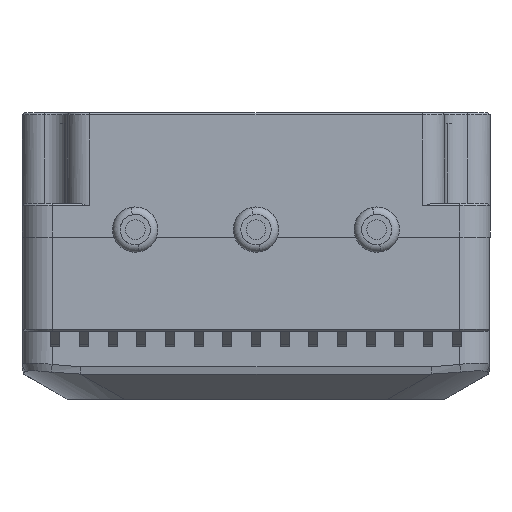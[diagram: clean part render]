
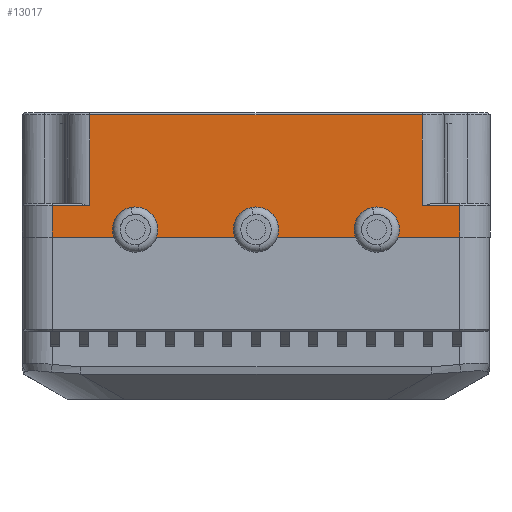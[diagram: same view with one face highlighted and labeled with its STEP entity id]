
A CAD part, front view. The second image highlights one B-rep face of the part: STEP entity #13017.
In plain terms, the highlighted planar face has unit normal (0, -1, 0).
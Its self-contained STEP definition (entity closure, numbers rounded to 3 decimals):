
#235 = VECTOR ( 'NONE', #21022, 1000. ) ;
#255 = DIRECTION ( 'NONE',  ( 0., 1., 0. ) ) ;
#491 = CARTESIAN_POINT ( 'NONE',  ( 22., -66.5, 12.3 ) ) ;
#642 = ORIENTED_EDGE ( 'NONE', *, *, #12946, .T. ) ;
#706 = LINE ( 'NONE', #13573, #19657 ) ;
#1344 = ORIENTED_EDGE ( 'NONE', *, *, #23910, .F. ) ;
#1546 = ORIENTED_EDGE ( 'NONE', *, *, #16426, .T. ) ;
#2110 = CARTESIAN_POINT ( 'NONE',  ( 13.709, -66.5, 16.5 ) ) ;
#2977 = AXIS2_PLACEMENT_3D ( 'NONE', #14854, #36587, #33210 ) ;
#3266 = VERTEX_POINT ( 'NONE', #34342 ) ;
#3284 = AXIS2_PLACEMENT_3D ( 'NONE', #6782, #32506, #28526 ) ;
#4060 = VERTEX_POINT ( 'NONE', #39728 ) ;
#4878 = ORIENTED_EDGE ( 'NONE', *, *, #23250, .T. ) ;
#5013 = CIRCLE ( 'NONE', #2977, 2.5 ) ;
#6201 = DIRECTION ( 'NONE',  ( 1., 0., 0. ) ) ;
#6649 = CARTESIAN_POINT ( 'NONE',  ( -31., -66.5, 12.3 ) ) ;
#6782 = CARTESIAN_POINT ( 'NONE',  ( -31., -66.5, 16.5 ) ) ;
#7462 = VERTEX_POINT ( 'NONE', #18223 ) ;
#7896 = DIRECTION ( 'NONE',  ( 0., 0., -1. ) ) ;
#8510 = CARTESIAN_POINT ( 'NONE',  ( -2.291, -66.5, 16.5 ) ) ;
#8538 = DIRECTION ( 'NONE',  ( 0., 0., 1. ) ) ;
#8786 = CARTESIAN_POINT ( 'NONE',  ( -22., -66.5, 16.5 ) ) ;
#9048 = LINE ( 'NONE', #22128, #20642 ) ;
#9052 = ORIENTED_EDGE ( 'NONE', *, *, #30261, .T. ) ;
#9094 = CARTESIAN_POINT ( 'NONE',  ( -27., -66.5, 16.5 ) ) ;
#9460 = LINE ( 'NONE', #15378, #17117 ) ;
#9476 = VERTEX_POINT ( 'NONE', #20892 ) ;
#10013 = CARTESIAN_POINT ( 'NONE',  ( -31., -66.5, 0.3 ) ) ;
#10473 = VERTEX_POINT ( 'NONE', #18038 ) ;
#11393 = CARTESIAN_POINT ( 'NONE',  ( -13.709, -66.5, 16.5 ) ) ;
#11686 = CARTESIAN_POINT ( 'NONE',  ( -16., -66.5, 15.5 ) ) ;
#12769 = CARTESIAN_POINT ( 'NONE',  ( -27., -66.5, 16.5 ) ) ;
#12775 = DIRECTION ( 'NONE',  ( 0., 0., 1. ) ) ;
#12946 = EDGE_CURVE ( 'NONE', #7462, #22647, #31567, .T. ) ;
#12972 = LINE ( 'NONE', #6649, #14654 ) ;
#13017 = ADVANCED_FACE ( 'NONE', ( #35685 ), #25580, .F. ) ;
#13159 = VECTOR ( 'NONE', #6201, 1000. ) ;
#13189 = CARTESIAN_POINT ( 'NONE',  ( 16., -66.5, 13. ) ) ;
#13573 = CARTESIAN_POINT ( 'NONE',  ( -31., -66.5, 12.3 ) ) ;
#13961 = LINE ( 'NONE', #20286, #23726 ) ;
#14654 = VECTOR ( 'NONE', #38925, 1000. ) ;
#14818 = LINE ( 'NONE', #27492, #22639 ) ;
#14854 = CARTESIAN_POINT ( 'NONE',  ( 16., -66.5, 15.5 ) ) ;
#14928 = CIRCLE ( 'NONE', #16937, 2.5 ) ;
#15001 = DIRECTION ( 'NONE',  ( 0., 0., -1. ) ) ;
#15244 = EDGE_CURVE ( 'NONE', #16182, #22647, #16227, .T. ) ;
#15378 = CARTESIAN_POINT ( 'NONE',  ( -31., -66.5, 16.5 ) ) ;
#15731 = ORIENTED_EDGE ( 'NONE', *, *, #40477, .F. ) ;
#15915 = EDGE_CURVE ( 'NONE', #3266, #33883, #37047, .T. ) ;
#16182 = VERTEX_POINT ( 'NONE', #12769 ) ;
#16227 = LINE ( 'NONE', #25945, #34528 ) ;
#16240 = VERTEX_POINT ( 'NONE', #20335 ) ;
#16264 = DIRECTION ( 'NONE',  ( 0., 0., -1. ) ) ;
#16426 = EDGE_CURVE ( 'NONE', #16182, #20995, #25125, .T. ) ;
#16937 = AXIS2_PLACEMENT_3D ( 'NONE', #29151, #255, #35269 ) ;
#17117 = VECTOR ( 'NONE', #31411, 1000. ) ;
#17826 = AXIS2_PLACEMENT_3D ( 'NONE', #11686, #20331, #7896 ) ;
#18038 = CARTESIAN_POINT ( 'NONE',  ( 0., -66.5, 13. ) ) ;
#18223 = CARTESIAN_POINT ( 'NONE',  ( -16., -66.5, 13. ) ) ;
#18947 = CARTESIAN_POINT ( 'NONE',  ( -18.291, -66.5, 16.5 ) ) ;
#19031 = EDGE_CURVE ( 'NONE', #33883, #16240, #29202, .T. ) ;
#19657 = VECTOR ( 'NONE', #32975, 1000. ) ;
#19891 = ORIENTED_EDGE ( 'NONE', *, *, #19031, .T. ) ;
#20243 = VERTEX_POINT ( 'NONE', #13189 ) ;
#20275 = DIRECTION ( 'NONE',  ( 0., 1., 0. ) ) ;
#20286 = CARTESIAN_POINT ( 'NONE',  ( 27., -66.5, 16.5 ) ) ;
#20331 = DIRECTION ( 'NONE',  ( 0., 1., 0. ) ) ;
#20335 = CARTESIAN_POINT ( 'NONE',  ( 22., -66.5, 0.3 ) ) ;
#20490 = DIRECTION ( 'NONE',  ( 0., 0., 1. ) ) ;
#20561 = LINE ( 'NONE', #38040, #41591 ) ;
#20600 = ORIENTED_EDGE ( 'NONE', *, *, #34078, .T. ) ;
#20642 = VECTOR ( 'NONE', #34776, 1000. ) ;
#20892 = CARTESIAN_POINT ( 'NONE',  ( 18.291, -66.5, 16.5 ) ) ;
#20995 = VERTEX_POINT ( 'NONE', #35854 ) ;
#21022 = DIRECTION ( 'NONE',  ( 0., 0., -1. ) ) ;
#21128 = DIRECTION ( 'NONE',  ( 0., 0., 1. ) ) ;
#21303 = EDGE_CURVE ( 'NONE', #10473, #36174, #22729, .T. ) ;
#21658 = EDGE_CURVE ( 'NONE', #16240, #41408, #20561, .T. ) ;
#22128 = CARTESIAN_POINT ( 'NONE',  ( -31., -66.5, 16.5 ) ) ;
#22392 = ORIENTED_EDGE ( 'NONE', *, *, #36147, .F. ) ;
#22576 = DIRECTION ( 'NONE',  ( 1., 0., 0. ) ) ;
#22639 = VECTOR ( 'NONE', #27904, 1000. ) ;
#22647 = VERTEX_POINT ( 'NONE', #18947 ) ;
#22729 = CIRCLE ( 'NONE', #34166, 2.5 ) ;
#23250 = EDGE_CURVE ( 'NONE', #41408, #28348, #12972, .T. ) ;
#23726 = VECTOR ( 'NONE', #21128, 1000. ) ;
#23910 = EDGE_CURVE ( 'NONE', #9476, #40283, #9048, .T. ) ;
#24545 = EDGE_CURVE ( 'NONE', #20243, #37762, #5013, .T. ) ;
#24813 = CARTESIAN_POINT ( 'NONE',  ( 27., -66.5, 12.3 ) ) ;
#25125 = LINE ( 'NONE', #9094, #33296 ) ;
#25580 = PLANE ( 'NONE',  #3284 ) ;
#25945 = CARTESIAN_POINT ( 'NONE',  ( -31., -66.5, 16.5 ) ) ;
#26599 = CARTESIAN_POINT ( 'NONE',  ( 27., -66.5, 16.5 ) ) ;
#27492 = CARTESIAN_POINT ( 'NONE',  ( -31., -66.5, 16.5 ) ) ;
#27904 = DIRECTION ( 'NONE',  ( 1., 0., 0. ) ) ;
#28060 = ORIENTED_EDGE ( 'NONE', *, *, #21303, .T. ) ;
#28348 = VERTEX_POINT ( 'NONE', #24813 ) ;
#28482 = ORIENTED_EDGE ( 'NONE', *, *, #21658, .T. ) ;
#28526 = DIRECTION ( 'NONE',  ( 0., 0., 1. ) ) ;
#29151 = CARTESIAN_POINT ( 'NONE',  ( 16., -66.5, 15.5 ) ) ;
#29202 = LINE ( 'NONE', #10013, #13159 ) ;
#29504 = ORIENTED_EDGE ( 'NONE', *, *, #15244, .F. ) ;
#30261 = EDGE_CURVE ( 'NONE', #9476, #20243, #14928, .T. ) ;
#30456 = EDGE_CURVE ( 'NONE', #28348, #40283, #13961, .T. ) ;
#30706 = CIRCLE ( 'NONE', #35424, 2.5 ) ;
#31313 = EDGE_CURVE ( 'NONE', #20995, #3266, #706, .T. ) ;
#31411 = DIRECTION ( 'NONE',  ( 1., 0., 0. ) ) ;
#31567 = CIRCLE ( 'NONE', #38307, 2.5 ) ;
#31935 = CIRCLE ( 'NONE', #17826, 2.5 ) ;
#32308 = CARTESIAN_POINT ( 'NONE',  ( -16., -66.5, 15.5 ) ) ;
#32338 = ORIENTED_EDGE ( 'NONE', *, *, #37607, .T. ) ;
#32506 = DIRECTION ( 'NONE',  ( 0., 1., 0. ) ) ;
#32975 = DIRECTION ( 'NONE',  ( 1., 0., 0. ) ) ;
#33210 = DIRECTION ( 'NONE',  ( 0., 0., 1. ) ) ;
#33296 = VECTOR ( 'NONE', #15001, 1000. ) ;
#33632 = ORIENTED_EDGE ( 'NONE', *, *, #15915, .T. ) ;
#33883 = VERTEX_POINT ( 'NONE', #39321 ) ;
#34078 = EDGE_CURVE ( 'NONE', #39227, #7462, #31935, .T. ) ;
#34122 = ORIENTED_EDGE ( 'NONE', *, *, #24545, .T. ) ;
#34166 = AXIS2_PLACEMENT_3D ( 'NONE', #35122, #38088, #12775 ) ;
#34342 = CARTESIAN_POINT ( 'NONE',  ( -22., -66.5, 12.3 ) ) ;
#34528 = VECTOR ( 'NONE', #22576, 1000. ) ;
#34776 = DIRECTION ( 'NONE',  ( 1., 0., 0. ) ) ;
#35122 = CARTESIAN_POINT ( 'NONE',  ( 0., -66.5, 15.5 ) ) ;
#35269 = DIRECTION ( 'NONE',  ( 0., 0., 1. ) ) ;
#35424 = AXIS2_PLACEMENT_3D ( 'NONE', #36933, #20275, #20490 ) ;
#35685 = FACE_OUTER_BOUND ( 'NONE', #37357, .T. ) ;
#35854 = CARTESIAN_POINT ( 'NONE',  ( -27., -66.5, 12.3 ) ) ;
#36147 = EDGE_CURVE ( 'NONE', #39227, #36174, #14818, .T. ) ;
#36174 = VERTEX_POINT ( 'NONE', #8510 ) ;
#36587 = DIRECTION ( 'NONE',  ( 0., 1., 0. ) ) ;
#36736 = ORIENTED_EDGE ( 'NONE', *, *, #30456, .T. ) ;
#36933 = CARTESIAN_POINT ( 'NONE',  ( 0., -66.5, 15.5 ) ) ;
#37047 = LINE ( 'NONE', #8786, #235 ) ;
#37127 = ORIENTED_EDGE ( 'NONE', *, *, #31313, .T. ) ;
#37357 = EDGE_LOOP ( 'NONE', ( #1546, #37127, #33632, #19891, #28482, #4878, #36736, #1344, #9052, #34122, #15731, #32338, #28060, #22392, #20600, #642, #29504 ) ) ;
#37607 = EDGE_CURVE ( 'NONE', #4060, #10473, #30706, .T. ) ;
#37762 = VERTEX_POINT ( 'NONE', #2110 ) ;
#38040 = CARTESIAN_POINT ( 'NONE',  ( 22., -66.5, 16.5 ) ) ;
#38088 = DIRECTION ( 'NONE',  ( 0., 1., 0. ) ) ;
#38226 = DIRECTION ( 'NONE',  ( 0., 1., 0. ) ) ;
#38307 = AXIS2_PLACEMENT_3D ( 'NONE', #32308, #38226, #16264 ) ;
#38925 = DIRECTION ( 'NONE',  ( 1., 0., 0. ) ) ;
#39227 = VERTEX_POINT ( 'NONE', #11393 ) ;
#39321 = CARTESIAN_POINT ( 'NONE',  ( -22., -66.5, 0.3 ) ) ;
#39728 = CARTESIAN_POINT ( 'NONE',  ( 2.291, -66.5, 16.5 ) ) ;
#40283 = VERTEX_POINT ( 'NONE', #26599 ) ;
#40477 = EDGE_CURVE ( 'NONE', #4060, #37762, #9460, .T. ) ;
#41408 = VERTEX_POINT ( 'NONE', #491 ) ;
#41591 = VECTOR ( 'NONE', #8538, 1000. ) ;
